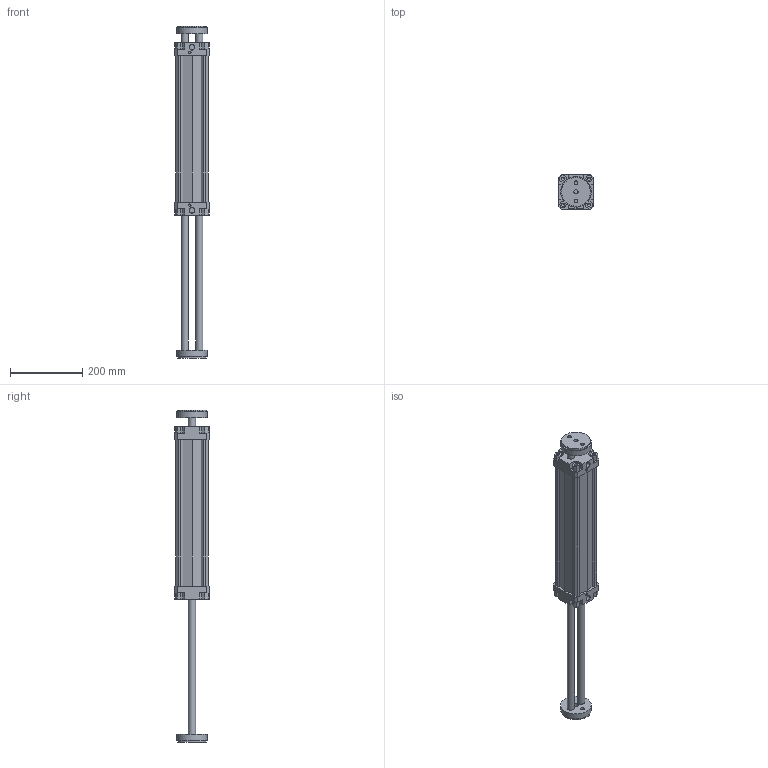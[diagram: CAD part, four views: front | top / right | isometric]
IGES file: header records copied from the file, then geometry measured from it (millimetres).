
Global section: file name: 132#_080_0350_06; native system: Autodesk Inventor 2014; preprocessor: unknown; author: A. Manieri; date: 20161006.162454; units: millimetre
Bounding box: 95 x 95 x 920 mm (x, y, z)
Volume: 2312199.1 mm3; surface area: 490959.6 mm2
Topology: 2 solids, 2 shells, 190 faces, 518 edges, 354 vertices
Faces by surface type: bspline 190
